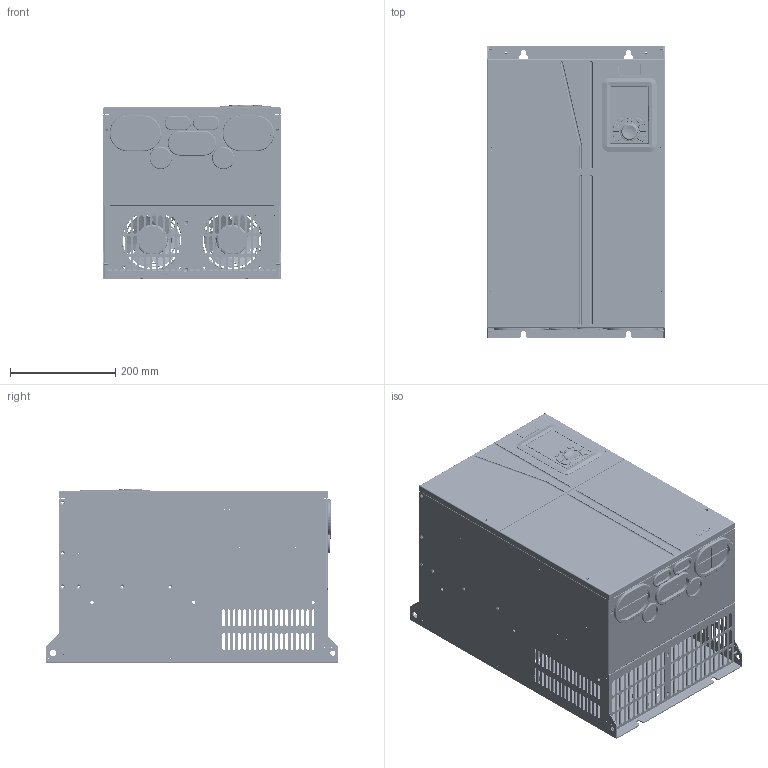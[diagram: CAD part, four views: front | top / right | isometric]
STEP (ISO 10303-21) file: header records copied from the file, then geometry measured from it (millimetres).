
FILE_DESCRIPTION((''),'2;1');
FILE_NAME('Open CASCADE Shape Model','2021-03-30T09:13:24',( 'Administrator'),(''),'Open CASCADE STEP processor 7.6', 'PRO/ENGINEER BY PARAMETRIC TECHNOLOGY CORPORATION, 2010100','Unknown' );
FILE_SCHEMA(('AUTOMOTIVE_DESIGN_CC2 { 1 2 10303 214 -1 1 5 4 }'));
Length unit declared in the file: millimetre
Products named in the file (83): GD350-110G-4_ASM; 41060086_ASM; 61061239_ASM; 80310543_ASM; 80310543; S-M4-ZC; S-M6-ZC; 80385049_ASM; 80385049; YMD-55-0D8-SL; BSO-M4-23-ZC; BSO-3D5M3-16-ZC; 80482637_ASM; 80482637; 80385054_ASM; 80482636_ASM; 80482636; 80385050_ASM; 80385050; 80385052_ASM; 80385052; 80385055_ASM; 80385055; 80385056_ASM; 80385056; 80385053_ASM; 80385053; 80385048; GB12617_4_4X10_SL; 80385057_ASM; 80385057; 80384715_ASM; 80384715; NZ-M8-ZC; 80384715SY; 80384717_ASM; 80482418_ASM; 80482418; 80880315; 80384718_ASM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
Assembly tree (232 placements, depth 6):
  GD350-110G-4_ASM
    41060086_ASM
      61061239_ASM
        80310543_ASM
          80310543
          S-M4-ZC  x6
          S-M6-ZC  x6
        80385049_ASM
          80385049
          YMD-55-0D8-SL  x2
          BSO-M4-23-ZC  x4
          BSO-3D5M3-16-ZC  x4
        80482637_ASM
          80482637
          S-M4-ZC  x2
        80385054_ASM  x2
        80482636_ASM
          80482636
          S-M4-ZC  x2
        80385050_ASM
          80385050
          S-M4-ZC  x13
        80385052_ASM  x2
          80385052
          S-M4-ZC
        80385055_ASM
          80385055
          S-M4-ZC  x2
        80385056_ASM
          80385056
          S-M4-ZC  x2
        80385053_ASM  x4
          80385053
          S-M4-ZC
        80385048  x5
        GB12617_4_4X10_SL  x58
      80385057_ASM
        80385057
        S-M4-ZC  x10
      80384715_ASM
        80384715
        S-M6-ZC  x9
        NZ-M8-ZC  x2
      80384715SY
      80384717_ASM
      80482418_ASM
        80482418
        YMD-55-0D8-SL  x2
      80880315
      80384718_ASM
        80384718
        S-M4-ZC  x4
        YMD-55-0D8-SL  x2
        FH-M3-6-ZC
      80384718SY
      61061122_ASM
        86051186_ASM
          86051186
          YMD-55-0D8-SL  x2
        80384708
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Bounding box: 338 x 554 x 331 mm (x, y, z)
Volume: 3189166.3 mm3; surface area: 3316809.4 mm2
Topology: 199 solids, 207 shells, 16782 faces, 44660 edges, 28809 vertices
Faces by surface type: plane 11248, cylinder 3405, cone 1119, bspline 403, torus 401, extrusion 144, revolution 32, sphere 30
Entity records: 260117 total; most frequent: CARTESIAN_POINT 68252, ORIENTED_EDGE 39572, DIRECTION 39166, EDGE_CURVE 19810, AXIS2_PLACEMENT_3D 13197, VECTOR 12756, LINE 12626, VERTEX_POINT 12598
